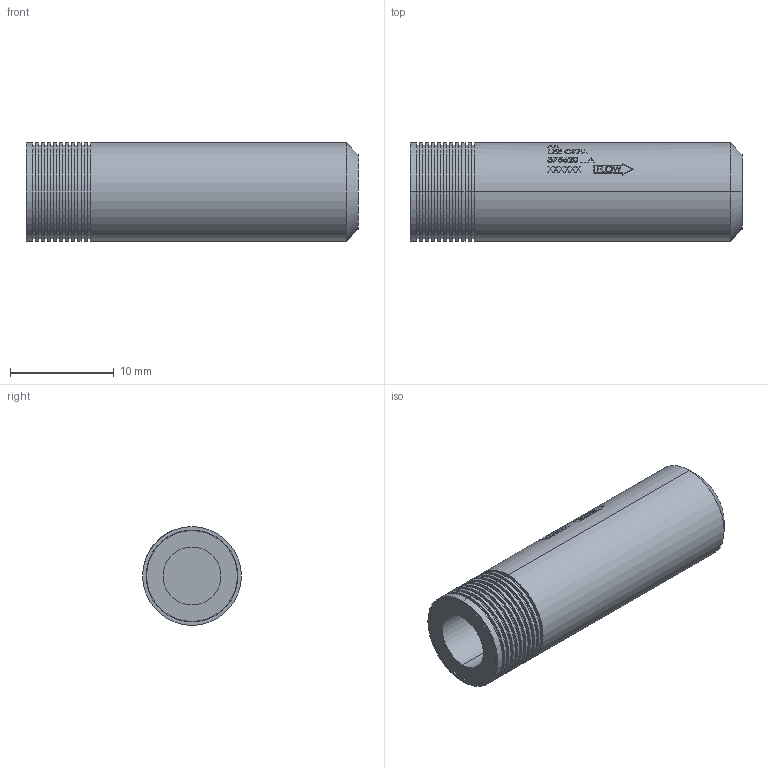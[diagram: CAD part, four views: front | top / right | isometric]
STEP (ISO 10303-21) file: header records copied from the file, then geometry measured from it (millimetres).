
FILE_DESCRIPTION (( 'STEP AP214' ), '1' );
FILE_NAME ('3DCKFA375620-A.STEP', '2021-03-30T14:58:56', ( '' ), ( '' ), 'SwSTEP 2.0', 'SolidWorks 2019', '' );
FILE_SCHEMA (( 'AUTOMOTIVE_DESIGN' ));
Length unit declared in the file: inch
Products named in the file (1): 3DCKFA375620-A
Bounding box: 32 x 9.52 x 9.52 mm (x, y, z)
Volume: 2068.3 mm3; surface area: 1358.1 mm2
Topology: 1 solids, 1 shells, 413 faces, 1061 edges, 706 vertices
Faces by surface type: bspline 167, plane 162, cylinder 80, cone 4
Entity records: 20289 total; most frequent: CARTESIAN_POINT 7279, ORIENTED_EDGE 2122, DIRECTION 1176, EDGE_CURVE 1061, VERTEX_POINT 706, B_SPLINE_CURVE_WITH_KNOTS 561, EDGE_LOOP 469, AXIS2_PLACEMENT_3D 429
